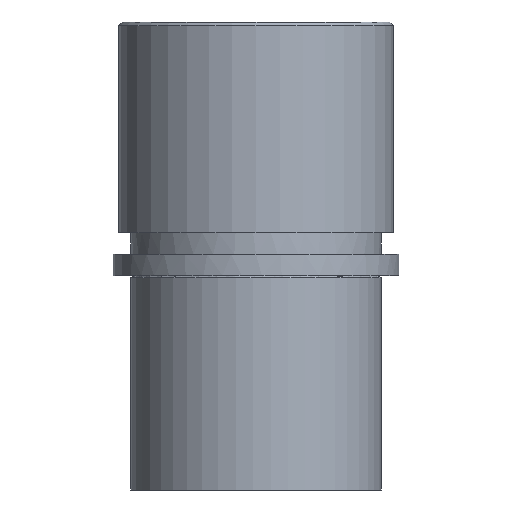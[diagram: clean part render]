
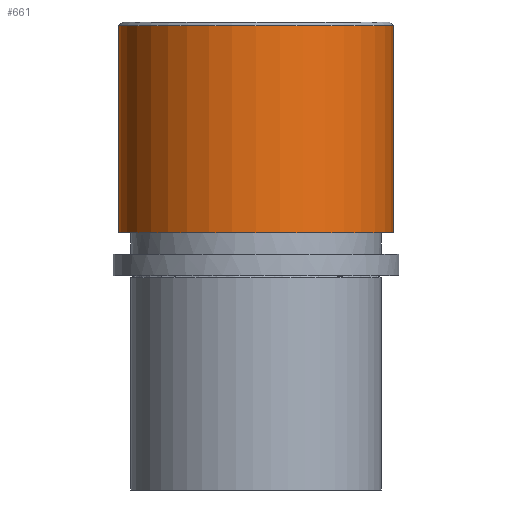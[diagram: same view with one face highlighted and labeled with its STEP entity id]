
A CAD part, front view. The second image highlights one B-rep face of the part: STEP entity #661.
In plain terms, the highlighted cylindrical face has radius 38.5 mm (diameter 77 mm), a partial arc.
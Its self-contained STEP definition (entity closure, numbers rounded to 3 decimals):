
#505=CARTESIAN_POINT('Vertex',(-38.5,0.,70.)) ;
#512=CARTESIAN_POINT('Vertex',(38.5,0.,70.)) ;
#532=CARTESIAN_POINT('Axis2P3D Location',(0.,0.,70.)) ;
#619=CARTESIAN_POINT('Line Origine',(-38.5,0.,71.)) ;
#623=CARTESIAN_POINT('Vertex',(-38.5,0.,12.)) ;
#626=CARTESIAN_POINT('Line Origine',(38.5,0.,71.)) ;
#630=CARTESIAN_POINT('Vertex',(38.5,0.,12.)) ;
#645=CARTESIAN_POINT('Axis2P3D Location',(0.,0.,71.)) ;
#650=CARTESIAN_POINT('Axis2P3D Location',(0.,0.,12.)) ;
#533=DIRECTION('Axis2P3D Direction',(0.,0.,-1.)) ;
#620=DIRECTION('Vector Direction',(0.,0.,-1.)) ;
#627=DIRECTION('Vector Direction',(0.,0.,-1.)) ;
#646=DIRECTION('Axis2P3D Direction',(0.,0.,-1.)) ;
#647=DIRECTION('Axis2P3D XDirection',(1.,0.,0.)) ;
#651=DIRECTION('Axis2P3D Direction',(0.,0.,-1.)) ;
#534=AXIS2_PLACEMENT_3D('Circle Axis2P3D',#532,#533,$) ;
#648=AXIS2_PLACEMENT_3D('Cylinder Axis2P3D',#645,#646,#647) ;
#652=AXIS2_PLACEMENT_3D('Circle Axis2P3D',#650,#651,$) ;
#656=ORIENTED_EDGE('',*,*,#632,.T.) ;
#657=ORIENTED_EDGE('',*,*,#536,.F.) ;
#658=ORIENTED_EDGE('',*,*,#625,.T.) ;
#659=ORIENTED_EDGE('',*,*,#654,.T.) ;
#621=VECTOR('Line Direction',#620,1.) ;
#628=VECTOR('Line Direction',#627,1.) ;
#661=ADVANCED_FACE('734-50',(#660),#649,.T.) ;
#535=CIRCLE('generated circle',#534,38.5) ;
#653=CIRCLE('generated circle',#652,38.5) ;
#649=CYLINDRICAL_SURFACE('generated cylinder',#648,38.5) ;
#536=EDGE_CURVE('',#506,#513,#535,.F.) ;
#625=EDGE_CURVE('',#506,#624,#622,.T.) ;
#632=EDGE_CURVE('',#631,#513,#629,.F.) ;
#654=EDGE_CURVE('',#624,#631,#653,.F.) ;
#655=EDGE_LOOP('',(#656,#657,#658,#659)) ;
#660=FACE_OUTER_BOUND('',#655,.T.) ;
#622=LINE('Line',#619,#621) ;
#629=LINE('Line',#626,#628) ;
#506=VERTEX_POINT('',#505) ;
#513=VERTEX_POINT('',#512) ;
#624=VERTEX_POINT('',#623) ;
#631=VERTEX_POINT('',#630) ;
